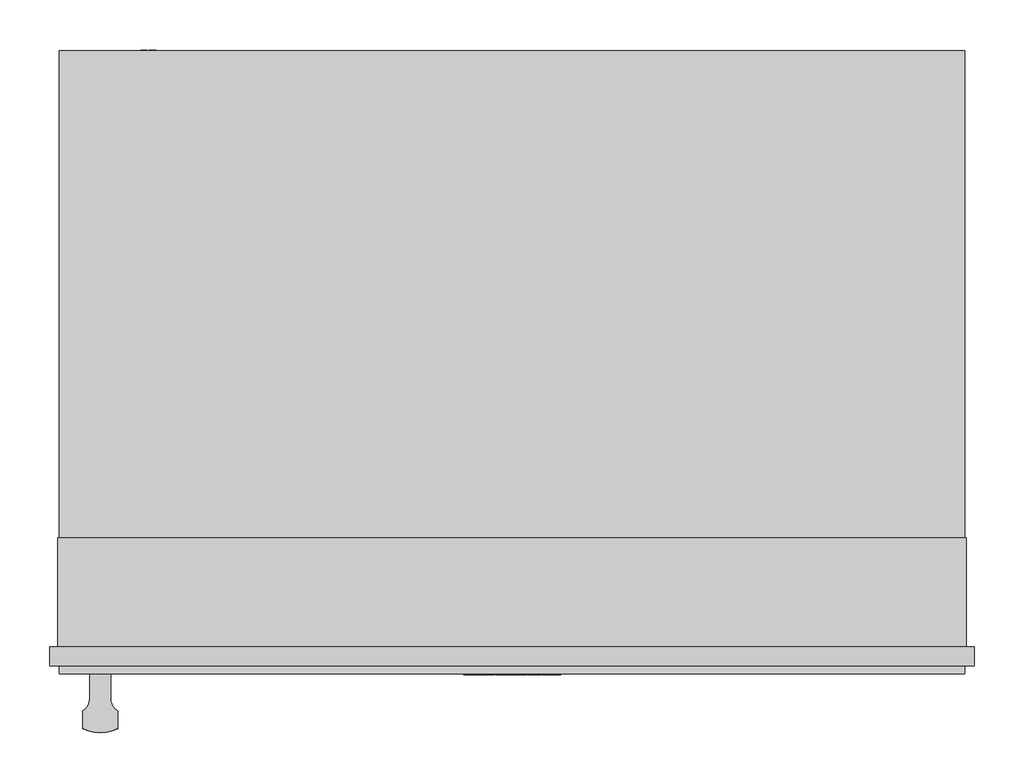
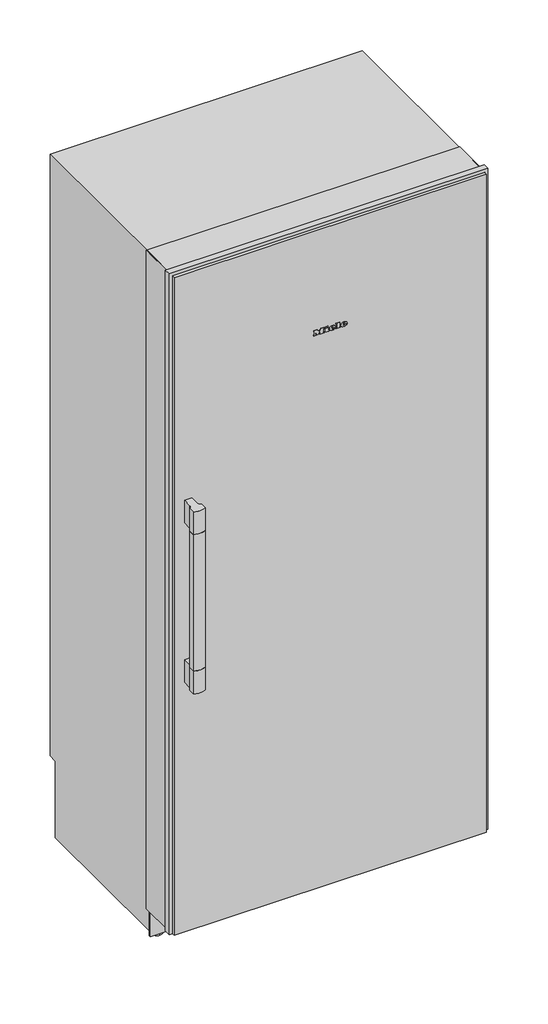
# Not in any storey: 1 proxy.
"""IFC4 building model written with IfcOpenShell, lengths in millimetres."""

from ifc_helpers import new_model, si_unit, origin, place, context, project, spatial, transform, mapped, element, save
from components import specialty_equipment_e287ddbb

model = new_model("IFC4")

# Units and contexts
model_context = context("Model", 3, world=origin())
ifc_project = project(units=[si_unit("LENGTHUNIT", "METRE", prefix="MILLI")], contexts=[model_context])

# Site, building
site = spatial("IfcSite", under=ifc_project)
building = spatial("IfcBuilding", under=site)

# Proxy
placement = place(None, origin())
specialty_equipment_shape = specialty_equipment_e287ddbb(model_context)
element("IfcBuildingElementProxy", 1, Name="11502840_USA_K2902SF : 36290211_USA_11502840_K2902SF", ObjectType="11502840_USA_K2902SF : 36290211_USA_11502840_K2902SF", at=placement, inside=building, context=model_context, shape_type="MappedRepresentation", body=[
    mapped(specialty_equipment_shape, transform((0.0, 0.0, 0.0), x_axis=(1.0, 0.0, 0.0), y_axis=(0.0, 1.0, 0.0), z_axis=(0.0, 0.0, 1.0))),
])

save(model, "model.ifc")
